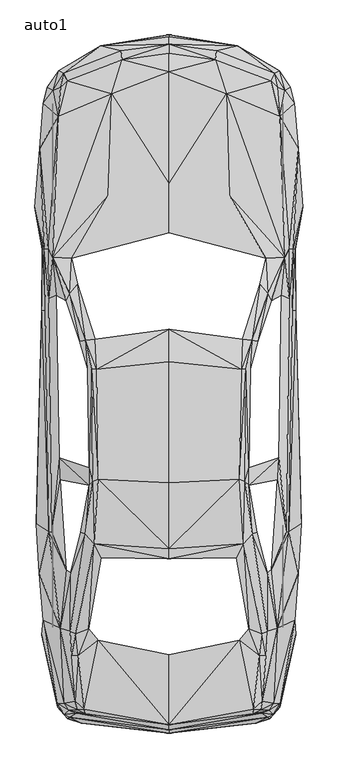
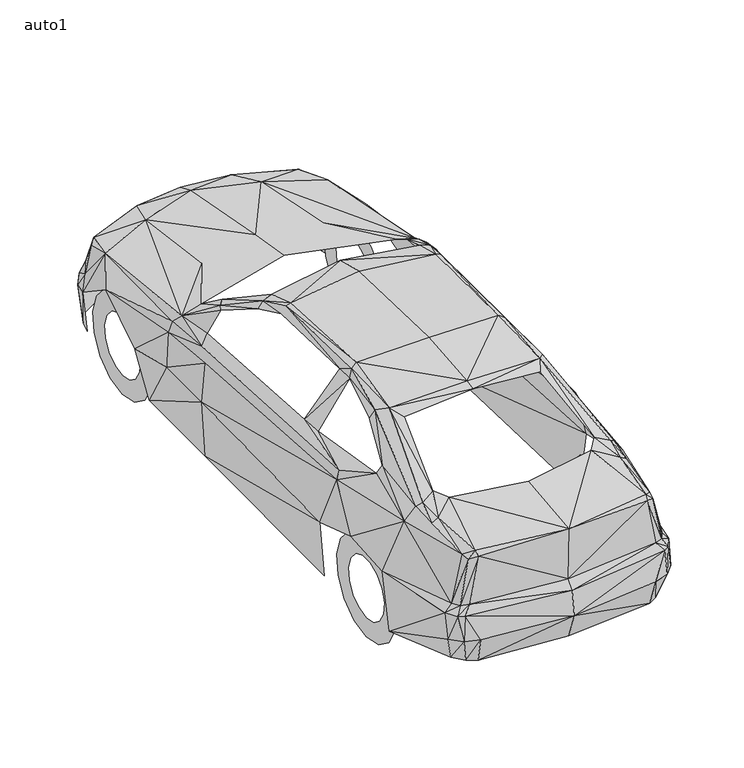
"""IFC4 building model written with IfcOpenShell, lengths in millimetres: proxy geometry, M_RPC maschio : auto1."""

from ifc_helpers import new_model, si_unit, origin, place, context, project, spatial, triangles, source, transform, mapped, element, save


def auto1_e486ee05(model_context):
    return source(origin(), model_context, "Body", "Tessellation", [
        triangles([(539.4919973, -837.9704355, 1011.2777349), (533.7823895, -865.3946337, 985.7417936), (6.2940733, -493.8644772, 1074.1735325), (588.2710693, -862.5173384, 687.852273), (630.7111387, -886.884383, 637.0501413), (6.2940733, -964.2565498, 637.4547678), (6.2940733, -927.7509293, 313.309982), (6.2940733, -986.2858011, 480.3726771), (6.2940733, -923.8845228, 687.5825947), (6.2940733, -934.5395411, 1026.1587307), (387.8497999, 2394.48582, 899.2882044), (618.2128464, 1998.8583698, 951.7088419), (849.7448622, 2318.5073181, 539.8966238), (820.4773899, 2685.4517807, 699.8110634), (737.6653662, 2003.668832, 911.2919048), (766.1685682, 2057.1684734, 852.8919085), (791.7045095, 2263.3442608, 212.6048099), (367.7087691, 3032.3451416, 793.5028009), (6.2940733, 3170.9497627, 779.6109163), (6.2940733, 2465.5637489, 910.3477764), (703.8572554, 2892.1223053, 773.271841), (727.3700644, 3088.5873482, 203.7031912), (6.2940733, 3401.9420586, 196.599882), (379.1729676, 3338.5069771, 197.5889387), (668.0259396, 3173.5571617, 198.7578535), (797.6389584, 2973.1810204, 500.3338861), (750.7031605, 3006.8990204, 203.7931021), (646.8959066, 3115.1121826, 725.9314167), (301.0814951, 3246.0289009, 733.4393887), (436.6738183, 3332.7971512, 475.292464), (306.7461748, 3303.3501114, 549.6074773), (6.2940733, 3342.552951, 538.3231007), (735.4175383, 3055.4533241, 552.2150216), (6.2940733, 3391.3322411, 471.2013256), (6.2940733, 3287.9745964, 727.5049398), (772.3277853, 3072.8072067, 481.0470546), (701.1148355, 3177.3787308, 472.1454177), (669.6444454, 3162.3177315, 549.382709), (687.7173975, 3072.5374557, 711.2752619), (6.2940733, 2158.7727367, 961.1499807), (798.8527651, -278.4273365, 623.5628105), (666.0028799, -798.4077341, 682.1876478), (762.7967537, 280.0817777, 879.5068537), (690.190139, -327.341284, 945.7744658), (783.2074991, 1671.4316986, 814.18337), (807.0800245, 1667.1607384, 568.2199677), (840.8432253, 329.0856179, 596.0487559), (822.6803804, 19.776877, 684.6153339), (802.0897041, 2055.909684, 561.251534), (790.2658619, 2058.1575119, 787.1637983), (783.5672155, 1666.4863609, 200.0616257), (803.3934763, 345.090564, 217.4152721), (805.9111279, -367.2636655, 284.8967454), (705.4756886, -825.1574821, 474.3483356), (544.1676204, -876.2744202, 308.319698), (555.3171215, -924.0193983, 477.9000083), (642.2202473, -895.0217497, 477.9000083), (650.0428802, -762.7112938, 297.3500187), (600.0050188, -840.1733534, 305.4424026), (709.1622368, -798.2278759, 633.2287176), (665.1487169, -866.7882986, 634.6224552), (637.5896433, -842.6011122, 682.367506), (469.762678, 1490.5670116, 1269.7844124), (651.7063688, 1731.1354671, 1082.6705429), (530.4105386, 1483.7334171, 1253.9592155), (629.5871521, 1774.7893433, 1082.4457747), (763.3811657, 1743.7236523, 877.1690603), (714.24245, 1765.52799, 930.3089853), (476.4613606, 202.3050025, 1302.0189274), (433.0322528, 116.930399, 1279.9448387), (560.9368003, 276.3053185, 1221.1850533), (531.8941689, 267.7633617, 1270.2788589), (625.8107111, 21.3503956, 1083.6595814), (652.2008881, 39.4233794, 1029.575528), (566.5565154, 1477.4842346, 1217.9481869), (697.47327, 744.8990816, 976.3007275), (690.5946928, 606.3395522, 977.9191607), (745.0384626, 280.0368131, 936.4232197), (451.5997604, 607.868129, 1350.483411), (6.2940733, 1346.4776962, 1347.3363647), (486.1722141, 593.3917597, 1328.3641216), (6.2940733, 587.3674181, 1371.7933022), (6.2940733, 171.778759, 1334.2986431), (6.2940733, 109.0628015, 1319.1478237), (461.7601868, 1300.4858814, 1328.7687481), (491.9268047, 1302.1494427, 1317.7092487), (519.1261983, 1303.4082321, 1271.8073994), (6.2940733, 1551.0800331, 1297.658147), (509.7749886, 572.7561733, 1284.4855499), (509.0556647, 682.497876, 1279.9897488), (592.2273322, -362.2733814, 1061.2706863), (595.5991831, -786.5389091, 973.6032177), (627.6090025, -346.1785426, 1035.1502604), (616.7292887, -501.2824837, 1013.2558846), (511.57328, -330.7130985, 1090.0435667), (451.2401167, -402.6453721, 1069.3180876), (577.3013901, -499.3043341, 1034.7906166), (584.7643793, -839.4990486, 969.2423647), (580.4484364, 1835.7968113, 1066.5307577), (-526.9038486, -837.9704355, 1011.2777349), (-521.1942407, -865.3946337, 985.7417936), (-575.6829206, -862.5173384, 687.852273), (-618.1229536, -886.884383, 637.0501413), (-375.2167048, 2394.48582, 899.2882044), (-605.6247339, 1998.8583698, 951.7088419), (-837.1567497, 2318.5073181, 539.8966238), (-807.8892775, 2685.4517807, 699.8110634), (-725.032271, 2003.668832, 911.2919048), (-753.5803831, 2057.1684734, 852.8919085), (-779.1163971, 2263.3442608, 212.6048099), (-355.1206203, 3032.3451416, 793.5028009), (-691.2241602, 2892.1223053, 773.271841), (-714.7819519, 3088.5873482, 203.7031912), (-366.5848188, 3338.5069771, 197.5889387), (-655.4378271, 3173.5571617, 198.7578535), (-785.0507732, 2973.1810204, 500.3338861), (-738.1149754, 3006.8990204, 203.7931021), (-634.3077215, 3115.1121826, 725.9314167), (-288.4933464, 3246.0289009, 733.4393887), (-424.0407231, 3332.7971512, 475.292464), (-294.1130615, 3303.3501114, 549.6074773), (-722.8293531, 3055.4533241, 552.2150216), (-759.7396002, 3072.8072067, 481.0470546), (-688.5266504, 3177.3787308, 472.1454177), (-657.056333, 3162.3177315, 549.382709), (-675.129285, 3072.5374557, 711.2752619), (-786.2646526, -278.4273365, 623.5628105), (-653.4147675, -798.4077341, 682.1876478), (-750.1636585, 280.0817777, 879.5068537), (-677.6019539, -327.341284, 945.7744658), (-770.6193867, 1671.4316986, 814.18337), (-794.4919121, 1667.1607384, 568.2199677), (-828.2551128, 329.0856179, 596.0487559), (-810.0472126, 19.776877, 684.6153339), (-789.456609, 2055.909684, 561.251534), (-777.6777494, 2058.1575119, 787.1637983), (-770.9790304, 1666.4863609, 200.0616257), (-790.7603811, 345.090564, 217.4152721), (-793.3230154, -367.2636655, 284.8967454), (-692.8875761, -825.1574821, 474.3483356), (-531.5794716, -876.2744202, 308.319698), (-542.7289727, -924.0193983, 477.9000083), (-629.6321348, -895.0217497, 477.9000083), (-637.4097851, -762.7112938, 297.3500187), (-587.41687, -840.1733534, 305.4424026), (-696.5741243, -798.2278759, 633.2287176), (-652.5155491, -866.7882986, 634.6224552), (-625.0014582, -842.6011122, 682.367506), (-457.1295465, 1490.5670116, 1269.7844124), (-639.0732737, 1731.1354671, 1082.6705429), (-517.8224261, 1483.7334171, 1253.9592155), (-616.9540569, 1774.7893433, 1082.4457747), (-750.7480705, 1743.7236523, 877.1690603), (-701.6543375, 1765.52799, 930.3089853), (-463.8282655, 202.3050025, 1302.0189274), (-420.444104, 116.930399, 1279.9448387), (-548.3486515, 276.3053185, 1221.1850533), (-519.3060202, 267.7633617, 1270.2788589), (-613.2225986, 21.3503956, 1083.6595814), (-639.5677929, 39.4233794, 1029.575528), (-553.9683666, 1477.4842346, 1217.9481869), (-684.8850849, 744.8990816, 976.3007275), (-678.0065804, 606.3395522, 977.9191607), (-732.4502775, 280.0368131, 936.4232197), (-438.9666653, 607.868129, 1350.483411), (-473.5840653, 593.3917597, 1328.3641216), (-449.172038, 1300.4858814, 1328.7687481), (-479.2936732, 1302.1494427, 1317.7092487), (-506.4930668, 1303.4082321, 1271.8073994), (-497.1418934, 572.7561733, 1284.4855499), (-496.4675159, 682.497876, 1279.9897488), (-579.594237, -362.2733814, 1061.2706863), (-583.0110343, -786.5389091, 973.6032177), (-615.02089, -346.1785426, 1035.1502604), (-604.1411399, -501.2824837, 1013.2558846), (-498.9851312, -330.7130985, 1090.0435667), (-438.6519679, -402.6453721, 1069.3180876), (-564.6682949, -499.3043341, 1034.7906166), (-572.1762305, -839.4990486, 969.2423647), (-567.8602876, 1835.7968113, 1066.5307577), (-724.6681217, 2647.3186432, 0.0044958), (-724.6681217, 2647.3186432, 125.4363842), (-724.6681217, 2778.5501678, 27.8782493), (-724.6681217, 2727.5233406, 142.4753423), (-724.6681217, 2887.0778458, 106.7340011), (-724.6681217, 2793.8806274, 190.6699569), (-724.6681217, 2954.1548561, 222.9495636), (-724.6681217, 2834.8821945, 261.7030848), (-724.6681217, 2968.1816162, 356.3839153), (-724.6681217, 2843.424115, 343.2563009), (-724.6681217, 2926.730658, 483.9737655), (-724.6681217, 2818.1128693, 421.2578261), (-724.6681217, 2836.9500916, 583.6449346), (-724.6681217, 2763.2197083, 482.1754741), (-724.6681217, 2714.3956535, 638.2235435), (-724.6681217, 2688.3202103, 515.5340484), (-724.6681217, 2580.2419235, 638.2235435), (-724.6681217, 2606.3173668, 515.5340484), (-724.6681217, 2457.6871948, 583.6449346), (-724.6681217, 2531.4178688, 482.1754741), (-724.6681217, 2367.9067738, 483.9737655), (-724.6681217, 2476.5247078, 421.2578261), (-724.6681217, 2326.4558155, 356.3839153), (-724.6681217, 2451.2134621, 343.2563009), (-724.6681217, 2340.4827209, 222.9495636), (-724.6681217, 2459.7553825, 261.7030848), (-724.6681217, 2407.5594406, 106.7340011), (-724.6681217, 2500.7566589, 190.6699569), (-724.6681217, 2516.0874092, 27.8782493), (-724.6681217, 2567.1142365, 142.4753423), (724.6681217, 2647.3186432, 0.0044958), (724.6681217, 2647.3186432, 125.4363842), (724.6681217, 2516.0874092, 27.8782493), (724.6681217, 2567.1142365, 142.4753423), (724.6681217, 2407.5594406, 106.7340011), (724.6681217, 2500.7566589, 190.6699569), (724.6681217, 2340.4827209, 222.9495636), (724.6681217, 2459.7553825, 261.7030848), (724.6681217, 2326.4558155, 356.3839153), (724.6681217, 2451.2134621, 343.2563009), (724.6681217, 2367.9067738, 483.9737655), (724.6681217, 2476.5247078, 421.2578261), (724.6681217, 2457.6871948, 583.6449346), (724.6681217, 2531.4178688, 482.1754741), (724.6681217, 2580.2419235, 638.2235435), (724.6681217, 2606.3173668, 515.5340484), (724.6681217, 2714.3956535, 638.2235435), (724.6681217, 2688.3202103, 515.5340484), (724.6681217, 2836.9500916, 583.6449346), (724.6681217, 2763.2197083, 482.1754741), (724.6681217, 2926.730658, 483.9737655), (724.6681217, 2818.1128693, 421.2578261), (724.6681217, 2968.1816162, 356.3839153), (724.6681217, 2843.424115, 343.2563009), (724.6681217, 2954.1548561, 222.9495636), (724.6681217, 2834.8821945, 261.7030848), (724.6681217, 2887.0778458, 106.7340011), (724.6681217, 2793.8806274, 190.6699569), (724.6681217, 2778.5501678, 27.8782493), (724.6681217, 2727.5233406, 142.4753423), (-724.6681217, 0.0, 0.0044958), (-724.6681217, 0.0, 125.4363842), (-724.6681217, 131.2314338, 27.8782493), (-724.6681217, 80.2044794, 142.4753423), (-724.6681217, 239.7592389, 106.7340011), (-724.6681217, 146.5619933, 190.6699569), (-724.6681217, 306.8360676, 222.9495636), (-724.6681217, 187.5633878, 261.7030848), (-724.6681217, 320.862864, 356.3839153), (-724.6681217, 196.1053446, 343.2563009), (-724.6681217, 279.4119058, 483.9737655), (-724.6681217, 170.7941716, 421.2578261), (-724.6681217, 189.6314484, 583.6449346), (-724.6681217, 115.9008652, 482.1754741), (-724.6681217, 67.0768378, 638.2235435), (-724.6681217, 41.0013945, 515.5340484), (-724.6681217, -67.0768378, 638.2235435), (-724.6681217, -41.0013945, 515.5340484), (-724.6681217, -189.6314484, 583.6449346), (-724.6681217, -115.9008652, 482.1754741), (-724.6681217, -279.4119058, 483.9737655), (-724.6681217, -170.7941716, 421.2578261), (-724.6681217, -320.862864, 356.3839153), (-724.6681217, -196.1053446, 343.2563009), (-724.6681217, -306.8360676, 222.9495636), (-724.6681217, -187.5633878, 261.7030848), (-724.6681217, -239.7592389, 106.7340011), (-724.6681217, -146.5619933, 190.6699569), (-724.6681217, -131.2314338, 27.8782493), (-724.6681217, -80.2044794, 142.4753423), (724.6681217, 0.0, 0.0044958), (724.6681217, 0.0, 125.4363842), (724.6681217, -131.2314338, 27.8782493), (724.6681217, -80.2044794, 142.4753423), (724.6681217, -239.7592389, 106.7340011), (724.6681217, -146.5619933, 190.6699569), (724.6681217, -306.8360676, 222.9495636), (724.6681217, -187.5633878, 261.7030848), (724.6681217, -320.862864, 356.3839153), (724.6681217, -196.1053446, 343.2563009), (724.6681217, -279.4119058, 483.9737655), (724.6681217, -170.7941716, 421.2578261), (724.6681217, -189.6314484, 583.6449346), (724.6681217, -115.9008652, 482.1754741), (724.6681217, -67.0768378, 638.2235435), (724.6681217, -41.0013945, 515.5340484), (724.6681217, 67.0768378, 638.2235435), (724.6681217, 41.0013945, 515.5340484), (724.6681217, 189.6314484, 583.6449346), (724.6681217, 115.9008652, 482.1754741), (724.6681217, 279.4119058, 483.9737655), (724.6681217, 170.7941716, 421.2578261), (724.6681217, 320.862864, 356.3839153), (724.6681217, 196.1053446, 343.2563009), (724.6681217, 306.8360676, 222.9495636), (724.6681217, 187.5633878, 261.7030848), (724.6681217, 239.7592389, 106.7340011), (724.6681217, 146.5619933, 190.6699569), (724.6681217, 131.2314338, 27.8782493), (724.6681217, 80.2044794, 142.4753423)], [[96, 10, 1], [4, 9, 6], [4, 6, 5], [4, 2, 9], [8, 7, 55], [8, 55, 56], [5, 6, 8], [56, 5, 8], [10, 9, 2], [96, 3, 10], [1, 10, 2], [50, 49, 13], [14, 50, 13], [15, 16, 21], [14, 16, 50], [19, 18, 29], [35, 19, 29], [20, 11, 18], [19, 20, 18], [21, 16, 14], [26, 27, 22], [28, 21, 39], [29, 18, 28], [21, 28, 18], [33, 21, 26], [32, 31, 30], [34, 32, 30], [23, 34, 30], [23, 30, 24], [32, 35, 29], [32, 29, 31], [26, 21, 14], [28, 39, 38], [39, 33, 38], [38, 33, 37], [37, 33, 36], [30, 37, 25], [30, 25, 24], [31, 38, 30], [30, 38, 37], [28, 38, 31], [28, 31, 29], [36, 26, 22], [25, 37, 36], [25, 36, 22], [39, 21, 33], [40, 12, 11], [20, 40, 11], [18, 11, 15], [18, 15, 21], [48, 43, 44], [47, 43, 48], [46, 43, 47], [45, 43, 46], [45, 46, 49], [45, 49, 50], [51, 47, 52], [46, 47, 51], [57, 59, 58], [57, 58, 54], [56, 55, 59], [56, 59, 57], [54, 58, 53], [41, 42, 60], [53, 41, 60], [53, 60, 54], [54, 60, 61], [54, 61, 57], [57, 61, 5], [57, 5, 56], [62, 61, 60], [62, 60, 42], [4, 5, 61], [4, 61, 62], [13, 49, 17], [49, 46, 17], [46, 51, 17], [63, 65, 99], [65, 66, 99], [65, 75, 66], [66, 75, 64], [43, 78, 74], [44, 43, 74], [74, 78, 77], [68, 76, 78], [67, 68, 78], [76, 77, 78], [67, 78, 43], [67, 43, 45], [72, 81, 69], [69, 81, 79], [79, 85, 80], [82, 79, 80], [72, 71, 89], [81, 72, 89], [83, 69, 79], [82, 83, 79], [84, 70, 69], [83, 84, 69], [85, 63, 88], [80, 85, 88], [65, 86, 87], [65, 87, 75], [65, 63, 85], [65, 85, 86], [79, 81, 86], [79, 86, 85], [86, 90, 87], [76, 90, 89], [76, 89, 77], [81, 89, 90], [81, 90, 86], [72, 73, 71], [72, 69, 91], [93, 72, 91], [69, 70, 95], [91, 69, 95], [96, 1, 97], [44, 92, 42], [1, 98, 92], [94, 97, 92], [44, 74, 73], [44, 93, 94], [44, 42, 41], [44, 94, 92], [73, 72, 93], [44, 73, 93], [48, 44, 41], [94, 93, 91], [95, 97, 91], [1, 92, 97], [97, 94, 91], [95, 96, 97], [98, 2, 62], [2, 4, 62], [92, 98, 42], [98, 62, 42], [98, 1, 2], [50, 16, 67], [50, 67, 45], [11, 12, 15], [16, 15, 67], [15, 68, 67], [66, 64, 15], [15, 64, 68], [12, 99, 66], [12, 66, 15], [36, 33, 26], [177, 100, 10], [102, 6, 9], [102, 103, 6], [102, 9, 101], [8, 141, 7], [8, 142, 141], [103, 8, 6], [142, 8, 103], [10, 101, 9], [177, 10, 3], [100, 101, 10], [136, 106, 135], [107, 106, 136], [108, 112, 109], [107, 136, 109], [19, 119, 111], [35, 119, 19], [20, 111, 104], [19, 111, 20], [112, 107, 109], [116, 113, 117], [118, 126, 112], [119, 118, 111], [112, 111, 118], [122, 116, 112], [32, 120, 121], [34, 120, 32], [23, 120, 34], [23, 114, 120], [32, 119, 35], [32, 121, 119], [116, 107, 112], [118, 125, 126], [126, 125, 122], [125, 124, 122], [124, 123, 122], [120, 115, 124], [120, 114, 115], [121, 120, 125], [120, 124, 125], [118, 121, 125], [118, 119, 121], [123, 113, 116], [115, 123, 124], [115, 113, 123], [126, 122, 112], [40, 104, 105], [20, 104, 40], [111, 108, 104], [111, 112, 108], [134, 130, 129], [133, 134, 129], [132, 133, 129], [131, 132, 129], [131, 135, 132], [131, 136, 135], [137, 138, 133], [132, 137, 133], [143, 144, 145], [143, 140, 144], [142, 145, 141], [142, 143, 145], [140, 139, 144], [127, 146, 128], [139, 146, 127], [139, 140, 146], [140, 147, 146], [140, 143, 147], [143, 103, 147], [143, 142, 103], [148, 146, 147], [148, 128, 146], [102, 147, 103], [102, 148, 147], [106, 110, 135], [135, 110, 132], [132, 110, 137], [149, 180, 151], [151, 180, 152], [151, 152, 161], [152, 150, 161], [129, 160, 164], [130, 160, 129], [160, 163, 164], [154, 164, 162], [153, 164, 154], [162, 164, 163], [153, 129, 164], [153, 131, 129], [158, 155, 166], [155, 165, 166], [165, 80, 167], [82, 80, 165], [158, 170, 157], [166, 170, 158], [83, 165, 155], [82, 165, 83], [84, 155, 156], [83, 155, 84], [167, 88, 149], [80, 88, 167], [151, 169, 168], [151, 161, 169], [151, 167, 149], [151, 168, 167], [165, 168, 166], [165, 167, 168], [168, 169, 171], [162, 170, 171], [162, 163, 170], [166, 171, 170], [166, 168, 171], [158, 157, 159], [158, 172, 155], [174, 172, 158], [155, 176, 156], [172, 176, 155], [177, 178, 100], [130, 128, 173], [100, 173, 179], [175, 173, 178], [130, 159, 160], [130, 175, 174], [130, 127, 128], [130, 173, 175], [159, 174, 158], [130, 174, 159], [134, 127, 130], [175, 172, 174], [176, 172, 178], [100, 178, 173], [178, 172, 175], [176, 178, 177], [179, 148, 101], [101, 148, 102], [173, 128, 179], [179, 128, 148], [179, 101, 100], [136, 153, 109], [136, 131, 153], [104, 108, 105], [109, 153, 108], [108, 153, 154], [152, 108, 150], [108, 154, 150], [105, 152, 180], [105, 108, 152], [123, 116, 122], [181, 184, 183], [181, 182, 184], [183, 186, 185], [183, 184, 186], [185, 188, 187], [185, 186, 188], [187, 190, 189], [187, 188, 190], [189, 192, 191], [189, 190, 192], [191, 194, 193], [191, 192, 194], [193, 196, 195], [193, 194, 196], [195, 198, 197], [195, 196, 198], [197, 200, 199], [197, 198, 200], [199, 202, 201], [199, 200, 202], [201, 204, 203], [201, 202, 204], [203, 206, 205], [203, 204, 206], [205, 208, 207], [205, 206, 208], [207, 210, 209], [207, 208, 210], [209, 182, 181], [209, 210, 182], [211, 214, 213], [211, 212, 214], [213, 216, 215], [213, 214, 216], [215, 218, 217], [215, 216, 218], [217, 220, 219], [217, 218, 220], [219, 222, 221], [219, 220, 222], [221, 224, 223], [221, 222, 224], [223, 226, 225], [223, 224, 226], [225, 228, 227], [225, 226, 228], [227, 230, 229], [227, 228, 230], [229, 232, 231], [229, 230, 232], [231, 234, 233], [231, 232, 234], [233, 236, 235], [233, 234, 236], [235, 238, 237], [235, 236, 238], [237, 240, 239], [237, 238, 240], [239, 212, 211], [239, 240, 212], [241, 244, 243], [241, 242, 244], [243, 246, 245], [243, 244, 246], [245, 248, 247], [245, 246, 248], [247, 250, 249], [247, 248, 250], [249, 252, 251], [249, 250, 252], [251, 254, 253], [251, 252, 254], [253, 256, 255], [253, 254, 256], [255, 258, 257], [255, 256, 258], [257, 260, 259], [257, 258, 260], [259, 262, 261], [259, 260, 262], [261, 264, 263], [261, 262, 264], [263, 266, 265], [263, 264, 266], [265, 268, 267], [265, 266, 268], [267, 270, 269], [267, 268, 270], [269, 242, 241], [269, 270, 242], [271, 274, 273], [271, 272, 274], [273, 276, 275], [273, 274, 276], [275, 278, 277], [275, 276, 278], [277, 280, 279], [277, 278, 280], [279, 282, 281], [279, 280, 282], [281, 284, 283], [281, 282, 284], [283, 286, 285], [283, 284, 286], [285, 288, 287], [285, 286, 288], [287, 290, 289], [287, 288, 290], [289, 292, 291], [289, 290, 292], [291, 294, 293], [291, 292, 294], [293, 296, 295], [293, 294, 296], [295, 298, 297], [295, 296, 298], [297, 300, 299], [297, 298, 300], [299, 272, 271], [299, 300, 272]], closed=False),
    ])


if __name__ == "__main__":
    model = new_model("IFC4")
    model_context = context("Model", 3, world=origin())
    ifc_project = project(units=[si_unit("LENGTHUNIT", "METRE", prefix="MILLI")], contexts=[model_context])
    site = spatial("IfcSite", under=ifc_project)
    building = spatial("IfcBuilding", under=site)
    placement = place(None, origin())
    auto1_shape = auto1_e486ee05(model_context)
    element("IfcBuildingElementProxy", 1, Name="M_RPC maschio : auto1", ObjectType="M_RPC maschio : auto1", at=placement, inside=building, context=model_context, shape_type="MappedRepresentation", body=[
        mapped(auto1_shape, transform((0.0, 0.0, 0.0), x_axis=(1.0, 0.0, 0.0), y_axis=(0.0, 1.0, 0.0), z_axis=(0.0, 0.0, 1.0))),
    ])
    save(model, "model.ifc")
